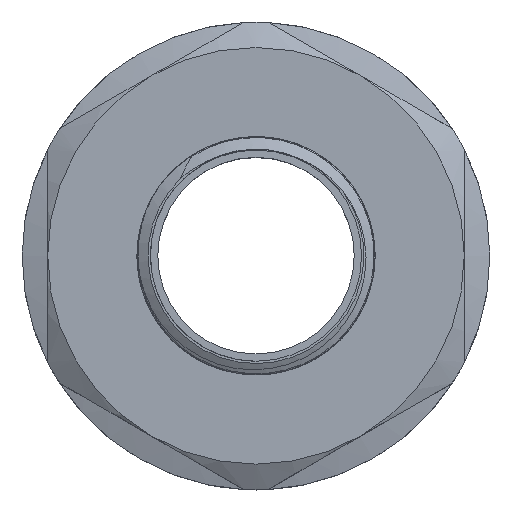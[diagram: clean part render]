
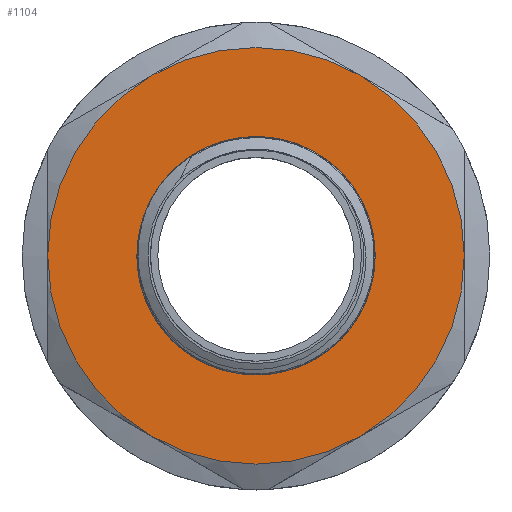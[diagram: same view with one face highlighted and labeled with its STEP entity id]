
A CAD part, top view. The second image highlights one B-rep face of the part: STEP entity #1104.
In plain terms, the highlighted planar face has unit normal (0, 0, 1).
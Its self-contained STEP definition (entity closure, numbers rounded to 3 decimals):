
#102=FACE_BOUND('',#298,.T.);
#204=PLANE('',#1218);
#233=FACE_OUTER_BOUND('',#297,.T.);
#297=EDGE_LOOP('',(#839,#840,#841,#842,#843,#844));
#298=EDGE_LOOP('',(#845,#846));
#346=CIRCLE('',#1169,26.5);
#348=CIRCLE('',#1172,26.5);
#350=CIRCLE('',#1175,26.5);
#351=CIRCLE('',#1177,26.5);
#353=CIRCLE('',#1180,26.5);
#355=CIRCLE('',#1183,26.5);
#358=CIRCLE('',#1191,13.433);
#361=CIRCLE('',#1194,13.433);
#419=VERTEX_POINT('',#1505);
#421=VERTEX_POINT('',#1511);
#423=VERTEX_POINT('',#1518);
#426=VERTEX_POINT('',#1530);
#429=VERTEX_POINT('',#1545);
#432=VERTEX_POINT('',#1557);
#449=VERTEX_POINT('',#1626);
#450=VERTEX_POINT('',#1627);
#542=EDGE_CURVE('',#419,#421,#346,.T.);
#546=EDGE_CURVE('',#423,#419,#348,.T.);
#550=EDGE_CURVE('',#426,#423,#350,.T.);
#552=EDGE_CURVE('',#429,#426,#351,.T.);
#556=EDGE_CURVE('',#432,#429,#353,.T.);
#560=EDGE_CURVE('',#421,#432,#355,.T.);
#580=EDGE_CURVE('',#449,#450,#358,.T.);
#584=EDGE_CURVE('',#450,#449,#361,.T.);
#839=ORIENTED_EDGE('',*,*,#560,.T.);
#840=ORIENTED_EDGE('',*,*,#556,.T.);
#841=ORIENTED_EDGE('',*,*,#552,.T.);
#842=ORIENTED_EDGE('',*,*,#550,.T.);
#843=ORIENTED_EDGE('',*,*,#546,.T.);
#844=ORIENTED_EDGE('',*,*,#542,.T.);
#845=ORIENTED_EDGE('',*,*,#580,.F.);
#846=ORIENTED_EDGE('',*,*,#584,.F.);
#1104=ADVANCED_FACE('',(#233,#102),#204,.T.);
#1169=AXIS2_PLACEMENT_3D('',#1515,#1273,#1274);
#1172=AXIS2_PLACEMENT_3D('',#1527,#1279,#1280);
#1175=AXIS2_PLACEMENT_3D('',#1539,#1285,#1286);
#1177=AXIS2_PLACEMENT_3D('',#1546,#1289,#1290);
#1180=AXIS2_PLACEMENT_3D('',#1558,#1295,#1296);
#1183=AXIS2_PLACEMENT_3D('',#1569,#1301,#1302);
#1191=AXIS2_PLACEMENT_3D('',#1628,#1325,#1326);
#1194=AXIS2_PLACEMENT_3D('',#1634,#1332,#1333);
#1218=AXIS2_PLACEMENT_3D('',#1688,#1386,#1387);
#1273=DIRECTION('center_axis',(0.,0.,1.));
#1274=DIRECTION('ref_axis',(0.,1.,0.));
#1279=DIRECTION('center_axis',(0.,0.,1.));
#1280=DIRECTION('ref_axis',(0.,1.,0.));
#1285=DIRECTION('center_axis',(0.,0.,1.));
#1286=DIRECTION('ref_axis',(0.,1.,0.));
#1289=DIRECTION('center_axis',(0.,0.,1.));
#1290=DIRECTION('ref_axis',(0.,1.,0.));
#1295=DIRECTION('center_axis',(0.,0.,1.));
#1296=DIRECTION('ref_axis',(0.,1.,0.));
#1301=DIRECTION('center_axis',(0.,0.,1.));
#1302=DIRECTION('ref_axis',(0.,1.,0.));
#1325=DIRECTION('center_axis',(0.,0.,1.));
#1326=DIRECTION('ref_axis',(1.,0.,0.));
#1332=DIRECTION('center_axis',(0.,0.,1.));
#1333=DIRECTION('ref_axis',(1.,0.,0.));
#1386=DIRECTION('center_axis',(0.,0.,1.));
#1387=DIRECTION('ref_axis',(1.,0.,0.));
#1505=CARTESIAN_POINT('',(26.5,0.,22.));
#1511=CARTESIAN_POINT('',(13.25,22.95,22.));
#1515=CARTESIAN_POINT('Origin',(0.,0.,22.));
#1518=CARTESIAN_POINT('',(13.25,-22.95,22.));
#1527=CARTESIAN_POINT('Origin',(0.,0.,22.));
#1530=CARTESIAN_POINT('',(-13.25,-22.95,22.));
#1539=CARTESIAN_POINT('Origin',(0.,0.,22.));
#1545=CARTESIAN_POINT('',(-26.5,0.,22.));
#1546=CARTESIAN_POINT('Origin',(0.,0.,22.));
#1557=CARTESIAN_POINT('',(-13.25,22.95,22.));
#1558=CARTESIAN_POINT('Origin',(0.,0.,22.));
#1569=CARTESIAN_POINT('Origin',(0.,0.,22.));
#1626=CARTESIAN_POINT('',(0.,13.433,22.));
#1627=CARTESIAN_POINT('',(0.,-13.433,22.));
#1628=CARTESIAN_POINT('Origin',(0.,0.,22.));
#1634=CARTESIAN_POINT('Origin',(0.,0.,22.));
#1688=CARTESIAN_POINT('Origin',(0.,-15.145,22.));
